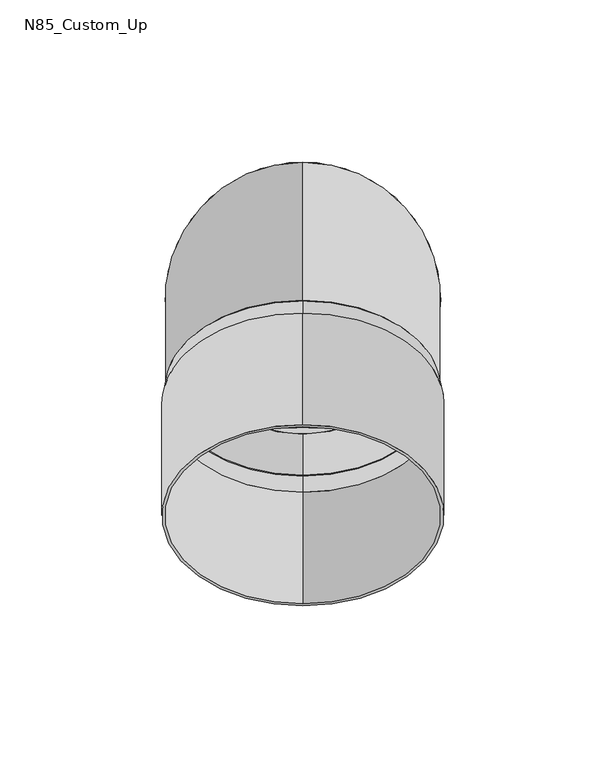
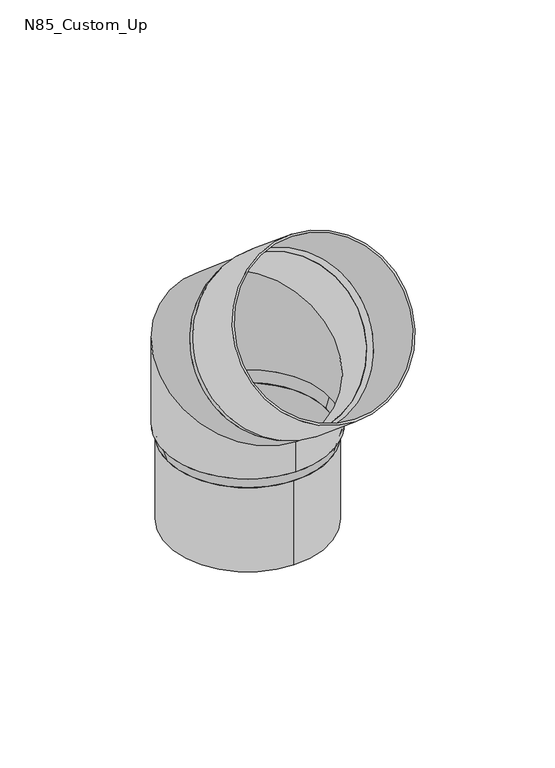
"""IFC4 building model written with IfcOpenShell, lengths in millimetres: proxy geometry, GROVIK_Downpipe_Knee : N85_Custom_Up."""

from ifc_helpers import new_model, si_unit, point, frame, origin, origin_with_axes, origin_2d, place, context, project, spatial, polyline, circle_curve, ellipse_curve, trimmed, segment, composite_curve, outline, extrude, source, transform, mapped, element, save
from ifc_brep_helpers import plane_surface, cylinder_surface, revolved_surface, advanced_brep


def n85_custom_up_d24f5f7b(model_context):
    return source(origin(), model_context, "Body", "SolidModel", [
        extrude(outline(composite_curve([segment(trimmed(circle_curve(origin_2d(), 40.7), [point((0.0, 40.7))], [point((0.0, -40.7))], False, "CARTESIAN"), True, "CONTINUOUS"), segment(trimmed(circle_curve(origin_2d(), 40.7), [point((0.0, -40.7))], [point((0.0, 40.7))], False, "CARTESIAN"), True, "CONTINUOUS")], self_intersect=False), holes=[composite_curve([segment(trimmed(circle_curve(origin_2d(), 39.7), [point((0.0, 39.7))], [point((0.0, -39.7))], True, "CARTESIAN"), True, "CONTINUOUS"), segment(trimmed(circle_curve(origin_2d(), 39.7), [point((0.0, -39.7))], [point((0.0, 39.7))], True, "CARTESIAN"), True, "CONTINUOUS")], self_intersect=False)]), frame((0.0, 0.0, -51.0), z_axis=(0.0, 0.0, 1.0), x_axis=(1.0, 0.0, 0.0)), (0.0, 0.0, 1.0), 45.0),
        advanced_brep(
        [(0.0, 42.5, 0.0), (0.0, -42.5, 0.0), (0.0, 41.5, 0.0), (0.0, -41.5, 0.0), (0.0, 41.5, 55.2517678), (0.0, -41.5, 16.5482322), (0.0, 42.5, 55.7180755), (0.0, -42.5, 16.0819245), (0.0, -0.1825221, 91.532964), (0.0, -54.8194689, 26.4191864), (0.0, -0.8253097, 90.7669196), (0.0, -54.1766813, 27.1852308)],
        [
            (0, 1, circle_curve(frame((0.0, 0.0, 0.0), z_axis=(0.0, 0.0, -1.0), x_axis=(0.0, -1.0, 0.0)), 42.5)),
            (1, 0, circle_curve(frame((0.0, 0.0, 0.0), z_axis=(0.0, 0.0, -1.0), x_axis=(0.0, -1.0, 0.0)), 42.5)),
            (2, 3, circle_curve(frame((0.0, 0.0, 0.0), z_axis=(0.0, 0.0, 1.0), x_axis=(0.0, -1.0, 0.0)), 41.5)),
            (3, 2, circle_curve(frame((0.0, 0.0, 0.0), z_axis=(0.0, 0.0, 1.0), x_axis=(0.0, -1.0, 0.0)), 41.5)),
            (2, 4),
            (4, 5, ellipse_curve(frame((0.0, 0.0, 35.9), z_axis=(0.0, -0.4226182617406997, 0.9063077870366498), x_axis=(0.0, 0.9063077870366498, 0.4226182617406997)), 45.7901836, 41.5)),
            (5, 3),
            (5, 4, ellipse_curve(frame((0.0, 0.0, 35.9), z_axis=(0.0, -0.4226182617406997, 0.9063077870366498), x_axis=(0.0, 0.9063077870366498, 0.4226182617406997)), 45.7901836, 41.5)),
            (0, 6),
            (6, 7, ellipse_curve(frame((0.0, 0.0, 35.9), z_axis=(0.0, 0.4226182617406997, -0.9063077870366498), x_axis=(0.0, -0.9063077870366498, -0.4226182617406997)), 46.8935616, 42.5)),
            (7, 1),
            (7, 6, ellipse_curve(frame((0.0, 0.0, 35.9), z_axis=(0.0, 0.4226182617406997, -0.9063077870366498), x_axis=(0.0, -0.9063077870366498, -0.4226182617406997)), 46.8935616, 42.5)),
            (8, 9, circle_curve(frame((0.0, -27.5009955, 58.9760752), z_axis=(0.0, -0.7660444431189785, 0.6427876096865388), x_axis=(0.0, -0.6427876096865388, -0.7660444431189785)), 42.5)),
            (9, 8, circle_curve(frame((0.0, -27.5009955, 58.9760752), z_axis=(0.0, -0.7660444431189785, 0.6427876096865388), x_axis=(0.0, -0.6427876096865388, -0.7660444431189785)), 42.5)),
            (10, 11, circle_curve(frame((0.0, -27.5009955, 58.9760752), z_axis=(0.0, 0.7660444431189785, -0.6427876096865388), x_axis=(0.0, -0.6427876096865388, -0.7660444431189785)), 41.5)),
            (11, 10, circle_curve(frame((0.0, -27.5009955, 58.9760752), z_axis=(0.0, 0.7660444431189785, -0.6427876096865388), x_axis=(0.0, -0.6427876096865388, -0.7660444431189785)), 41.5)),
            (4, 10),
            (11, 5),
            (6, 8),
            (9, 7),
        ],
        [
            plane_surface(frame((0.0, 0.0, 0.0), z_axis=(0.0, 0.0, -1.0), x_axis=(1.0, 0.0, 0.0))),
            revolved_surface(polyline([(0.0, -41.5, 55.2517678), (0.0, -41.5, 0.0)]), (0.0, 0.0, 0.0), (0.0, 0.0, 1.0)),
            cylinder_surface(frame((0.0, 0.0, 0.0), z_axis=(0.0, 0.0, -1.0), x_axis=(0.0, -1.0, 0.0)), 42.5),
            plane_surface(frame((0.0, -27.5009955, 58.9760752), z_axis=(0.0, -0.7660444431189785, 0.6427876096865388), x_axis=(1.0, 0.0, 0.0))),
            revolved_surface(polyline([(0.0, -54.17668131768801, 27.18523080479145), (0.0, -11.851371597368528, -8.32992097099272)]), (0.0, 0.0, 35.9), (0.0, -0.7660444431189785, 0.6427876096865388)),
            cylinder_surface(frame((0.0, 0.0, 35.9), z_axis=(0.0, 0.7660444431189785, -0.6427876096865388), x_axis=(0.0, -0.6427876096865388, -0.7660444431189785)), 42.5),
        ],
        [
            (0, [[1, 2], [3, 4]]),
            (1, [[-3, 5, 6, 7]]),
            (1, [[-4, -7, 8, -5]]),
            (2, [[-1, 9, 10, 11]]),
            (2, [[-2, -11, 12, -9]]),
            (3, [[13, 14], [15, 16]]),
            (4, [[-6, 17, -16, 18]]),
            (4, [[-8, -18, -15, -17]]),
            (5, [[-10, 19, -14, 20]]),
            (5, [[-12, -20, -13, -19]]),
        ],
    ),
        advanced_brep(
        [(-40.7, 0.0, -6.0), (40.7, 0.0, -6.0), (-39.7, 0.0, -6.0), (39.7, 0.0, -6.0), (-42.5, 0.0, 0.0), (42.5, 0.0, 0.0), (41.5, 0.0, 0.0), (-41.5, 0.0, 0.0)],
        [
            (0, 1, circle_curve(frame((0.0, 0.0, -6.0), z_axis=(0.0, 0.0, -1.0), x_axis=(-1.0, 0.0, 0.0)), 40.7)),
            (1, 0, circle_curve(frame((0.0, 0.0, -6.0), z_axis=(0.0, 0.0, -1.0), x_axis=(1.0, 0.0, 0.0)), 40.7)),
            (2, 3, circle_curve(frame((0.0, 0.0, -6.0), z_axis=(0.0, 0.0, 1.0), x_axis=(1.0, 0.0, 0.0)), 39.7)),
            (3, 2, circle_curve(frame((0.0, 0.0, -6.0), z_axis=(0.0, 0.0, 1.0), x_axis=(-1.0, 0.0, 0.0)), 39.7)),
            (4, 5, circle_curve(origin_with_axes(), 42.5)),
            (5, 4, circle_curve(frame((0.0, 0.0, 0.0), z_axis=(0.0, 0.0, 1.0), x_axis=(-1.0, 0.0, 0.0)), 42.5)),
            (6, 7, circle_curve(frame((0.0, 0.0, 0.0), z_axis=(0.0, 0.0, -1.0), x_axis=(1.0, 0.0, 0.0)), 41.5)),
            (7, 6, circle_curve(frame((0.0, 0.0, 0.0), z_axis=(0.0, 0.0, -1.0), x_axis=(-1.0, 0.0, 0.0)), 41.5)),
            (1, 5),
            (4, 0),
            (6, 3),
            (2, 7),
        ],
        [
            plane_surface(frame((0.0, 0.0, -6.0), z_axis=(0.0, 0.0, -1.0), x_axis=(0.0, 1.0, 0.0))),
            plane_surface(frame((0.0, 0.0, 0.0), z_axis=(0.0, 0.0, 1.0), x_axis=(0.0, 1.0, 0.0))),
            revolved_surface(polyline([(40.70000000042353, 0.0, -6.0), (42.5, 0.0, 0.0)]), (0.0, 0.0, -141.6666667), (0.0, 0.0, 1.0)),
            revolved_surface(polyline([(-40.70000000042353, 0.0, -6.0), (-42.5, 0.0, 0.0)]), (0.0, 0.0, -141.6666667), (0.0, 0.0, 1.0)),
            revolved_surface(polyline([(41.5, 0.0, 0.0), (39.699999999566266, 0.0, -6.0)]), (0.0, 0.0, -138.3333333), (0.0, 0.0, 1.0)),
        ],
        [
            (0, [[1, 2], [3, 4]]),
            (1, [[5, 6], [7, 8]]),
            (2, [[-2, 9, -5, 10]]),
            (3, [[-1, -10, -6, -9]]),
            (4, [[11, -3, 12, -7]]),
            (4, [[-11, -8, -12, -4]]),
        ],
    ),
        extrude(outline(composite_curve([segment(trimmed(circle_curve(origin_2d(), 43.5), [point((0.0, -43.4999999))], [point((0.0, 43.5000001))], False, "CARTESIAN"), True, "CONTINUOUS"), segment(trimmed(circle_curve(origin_2d(), 43.5), [point((0.0, 43.5000001))], [point((0.0, -43.4999999))], False, "CARTESIAN"), True, "CONTINUOUS")], self_intersect=False), holes=[composite_curve([segment(trimmed(circle_curve(origin_2d(), 42.5), [point((0.0, -42.5))], [point((0.0, 42.5))], True, "CARTESIAN"), True, "CONTINUOUS"), segment(trimmed(circle_curve(origin_2d(), 42.5), [point((0.0, 42.5))], [point((0.0, -42.5))], True, "CARTESIAN"), True, "CONTINUOUS")], self_intersect=False)]), frame((0.0, -32.0972622, 62.8328008), z_axis=(0.0, -0.7660444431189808, 0.642787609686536), x_axis=(1.0, 0.0, 0.0)), (0.0, 0.0, 1.0), 45.0),
        advanced_brep(
        [(0.0, -54.8194689, 26.4191864), (0.0, -0.1825221, 91.532964), (0.0, -0.8253097, 90.7669196), (0.0, -54.1766813, 27.1852308), (0.0, -60.0585232, 29.5098676), (0.0, -4.1360011, 96.1557341), (0.0, -59.4157356, 30.275912), (0.0, -4.7787888, 95.3896897)],
        [
            (0, 1, circle_curve(frame((0.0, -27.5009955, 58.9760752), z_axis=(0.0, 0.7660444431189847, -0.6427876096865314), x_axis=(0.0, -0.6427876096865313, -0.7660444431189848)), 42.5)),
            (1, 0, circle_curve(frame((0.0, -27.5009955, 58.9760752), z_axis=(0.0, 0.7660444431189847, -0.6427876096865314), x_axis=(0.0, 0.6427876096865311, 0.7660444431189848)), 42.5)),
            (2, 3, circle_curve(frame((0.0, -27.5009955, 58.9760752), z_axis=(0.0, -0.766044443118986, 0.6427876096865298), x_axis=(0.0, -0.64278760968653, -0.7660444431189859)), 41.5)),
            (3, 2, circle_curve(frame((0.0, -27.5009955, 58.9760752), z_axis=(0.0, -0.766044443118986, 0.6427876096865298), x_axis=(0.0, 0.6427876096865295, 0.7660444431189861)), 41.5)),
            (4, 5, circle_curve(frame((0.0, -32.0972622, 62.8328008), z_axis=(0.0, -0.7660444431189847, 0.6427876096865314), x_axis=(0.0, 0.6427876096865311, 0.7660444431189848)), 43.5)),
            (5, 4, circle_curve(frame((0.0, -32.0972622, 62.8328008), z_axis=(0.0, -0.7660444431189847, 0.6427876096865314), x_axis=(0.0, -0.6427876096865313, -0.7660444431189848)), 43.5)),
            (6, 7, circle_curve(frame((0.0, -32.0972622, 62.8328008), z_axis=(0.0, 0.766044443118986, -0.6427876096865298), x_axis=(0.0, -0.64278760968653, -0.7660444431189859)), 42.5)),
            (7, 6, circle_curve(frame((0.0, -32.0972622, 62.8328008), z_axis=(0.0, 0.766044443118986, -0.6427876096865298), x_axis=(0.0, 0.6427876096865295, 0.7660444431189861)), 42.5)),
            (0, 4),
            (5, 1),
            (6, 3),
            (2, 7),
        ],
        [
            plane_surface(frame((0.0, -27.5009955, 58.9760752), z_axis=(0.0, 0.7660444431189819, -0.6427876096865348), x_axis=(-1.0, 0.0, 0.0))),
            plane_surface(frame((0.0, -32.0972622, 62.8328008), z_axis=(0.0, -0.7660444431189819, 0.6427876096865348), x_axis=(-1.0, 0.0, 0.0))),
            revolved_surface(polyline([(0.0, -54.819468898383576, 26.41918636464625), (0.0, -60.058523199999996, 29.509867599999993)]), (0.0, 167.8403375, -104.9347653), (0.0, -0.7660444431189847, 0.6427876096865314)),
            revolved_surface(polyline([(0.0, -0.1825220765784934, 91.5329640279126), (0.0, -4.136001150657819, 96.1557341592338)]), (0.0, 167.8403375, -104.9347653), (0.0, -0.7660444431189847, 0.6427876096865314)),
            revolved_surface(polyline([(0.0, -59.41573563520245, 30.275912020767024), (0.0, -54.17668131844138, 27.1852307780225)]), (0.0, 163.2440708, -101.0780396), (0.0, -0.766044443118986, 0.6427876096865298)),
        ],
        [
            (0, [[1, 2], [3, 4]]),
            (1, [[5, 6], [7, 8]]),
            (2, [[-1, 9, -6, 10]]),
            (3, [[-2, -10, -5, -9]]),
            (4, [[11, -3, 12, -7]]),
            (4, [[-11, -8, -12, -4]]),
        ],
    ),
    ])


if __name__ == "__main__":
    model = new_model("IFC4")
    model_context = context("Model", 3, world=origin())
    ifc_project = project(units=[si_unit("LENGTHUNIT", "METRE", prefix="MILLI")], contexts=[model_context])
    site = spatial("IfcSite", under=ifc_project)
    building = spatial("IfcBuilding", under=site)
    placement = place(None, origin())
    n85_custom_up_shape = n85_custom_up_d24f5f7b(model_context)
    element("IfcBuildingElementProxy", 1, Name="GROVIK_Downpipe_Knee : N85_Custom_Up", ObjectType="GROVIK_Downpipe_Knee : N85_Custom_Up", at=placement, inside=building, context=model_context, shape_type="MappedRepresentation", body=[
        mapped(n85_custom_up_shape, transform((0.0, 0.0, 0.0), x_axis=(1.0, 0.0, 0.0), y_axis=(0.0, 1.0, 0.0), z_axis=(0.0, 0.0, 1.0))),
    ])
    save(model, "model.ifc")
